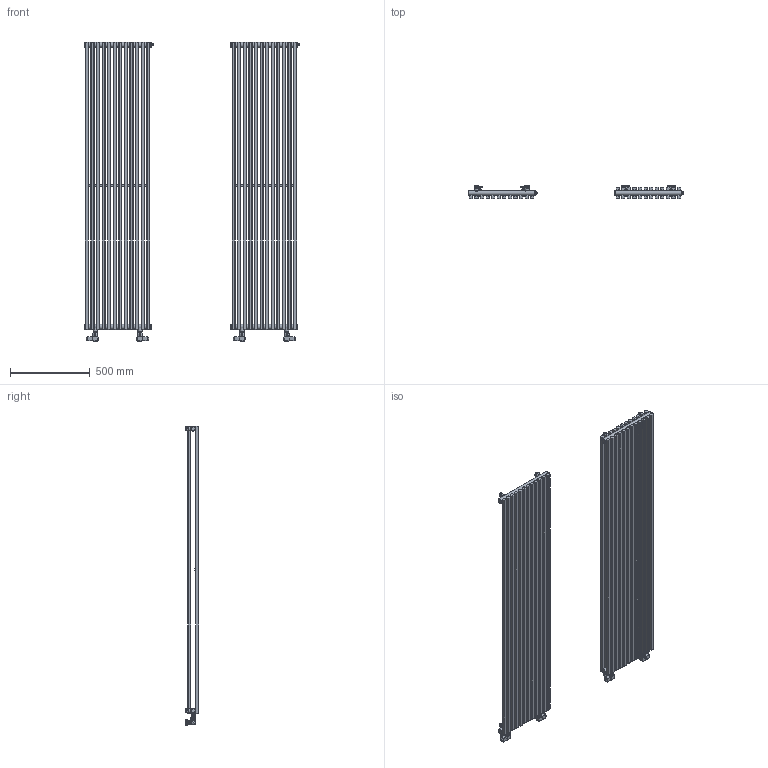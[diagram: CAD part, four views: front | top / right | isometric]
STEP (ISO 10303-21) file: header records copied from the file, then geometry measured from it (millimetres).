
FILE_DESCRIPTION ((), '1');
FILE_NAME ('/Users/melo21casa/Desktop/3D x Diliberto/RING/RING-H..DH 3D 180-42.stp', '2025-09-10T15:23:19', ('Unknown'), ('Unknown'), 'HarmonyWare STEP v2.1.7', 'Vectorworks', '');
FILE_SCHEMA (('CONFIG_CONTROL_DESIGN'));
Bounding box: 1351.56 x 83.91 x 1877.26 mm (x, y, z)
Volume: 27376835.6 mm3; surface area: 5374727.5 mm2
Topology: 136 solids, 1784 shells, 4166 faces, 12320 edges, 9684 vertices
Faces by surface type: bspline 4166
Entity records: 302405 total; most frequent: CARTESIAN_POINT 235940, ORIENTED_EDGE 16920, EDGE_CURVE 11684, B_SPLINE_CURVE_WITH_KNOTS 9952, VERTEX_POINT 9404, EDGE_LOOP 4352, FACE_OUTER_BOUND 4106, ADVANCED_FACE 4106
